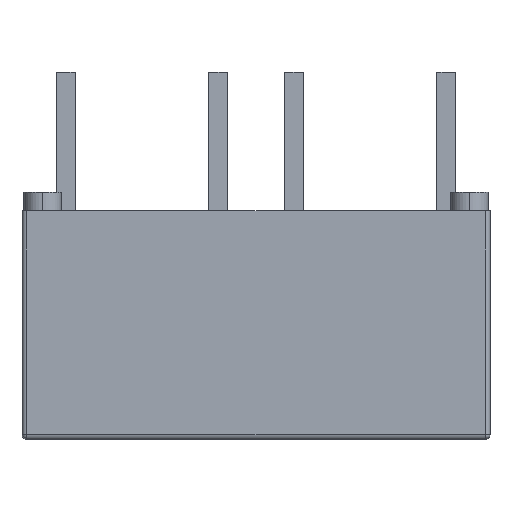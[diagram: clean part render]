
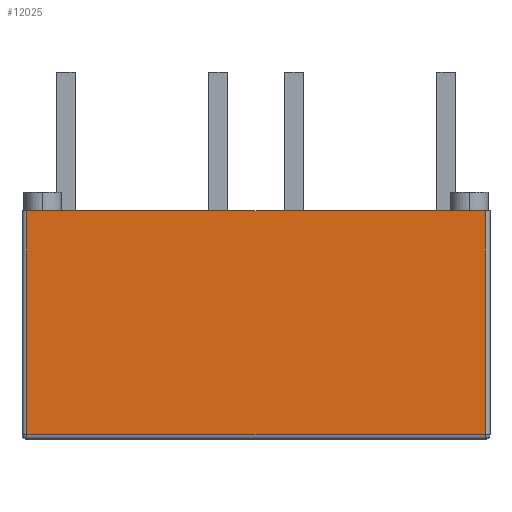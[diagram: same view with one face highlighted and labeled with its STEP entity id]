
A CAD part, top view. The second image highlights one B-rep face of the part: STEP entity #12025.
In plain terms, the highlighted planar face has unit normal (0, 0, 1).
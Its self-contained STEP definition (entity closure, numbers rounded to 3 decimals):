
#96 = DIRECTION ( 'NONE',  ( 0., 0., -1. ) ) ;
#185 = CARTESIAN_POINT ( 'NONE',  ( -6.25, 3.05, 1.85 ) ) ;
#840 = CARTESIAN_POINT ( 'NONE',  ( -6.123, 3.05, 1.85 ) ) ;
#936 = VECTOR ( 'NONE', #1730, 1000. ) ;
#1054 = DIRECTION ( 'NONE',  ( 0., -1., 0. ) ) ;
#1418 = VERTEX_POINT ( 'NONE', #9448 ) ;
#1663 = LINE ( 'NONE', #6139, #936 ) ;
#1730 = DIRECTION ( 'NONE',  ( 1., 0., 0. ) ) ;
#1931 = LINE ( 'NONE', #840, #10924 ) ;
#2806 = EDGE_CURVE ( 'NONE', #11660, #14353, #1931, .T. ) ;
#3451 = DIRECTION ( 'NONE',  ( -1., 0., 0. ) ) ;
#4169 = AXIS2_PLACEMENT_3D ( 'NONE', #12266, #96, #3451 ) ;
#5348 = VERTEX_POINT ( 'NONE', #14241 ) ;
#5530 = CARTESIAN_POINT ( 'NONE',  ( 6.123, 3.05, 1.85 ) ) ;
#5793 = ORIENTED_EDGE ( 'NONE', *, *, #13943, .F. ) ;
#6139 = CARTESIAN_POINT ( 'NONE',  ( -6.25, -2.923, 1.85 ) ) ;
#6711 = LINE ( 'NONE', #5530, #8315 ) ;
#6786 = EDGE_CURVE ( 'NONE', #5348, #1418, #6711, .T. ) ;
#7847 = ORIENTED_EDGE ( 'NONE', *, *, #2806, .T. ) ;
#7974 = CARTESIAN_POINT ( 'NONE',  ( -6.123, 3.05, 1.85 ) ) ;
#8315 = VECTOR ( 'NONE', #10004, 1000. ) ;
#9448 = CARTESIAN_POINT ( 'NONE',  ( 6.123, 3.05, 1.85 ) ) ;
#9559 = EDGE_CURVE ( 'NONE', #14353, #5348, #1663, .T. ) ;
#10004 = DIRECTION ( 'NONE',  ( 0., 1., 0. ) ) ;
#10155 = LINE ( 'NONE', #185, #13621 ) ;
#10924 = VECTOR ( 'NONE', #1054, 1000. ) ;
#10930 = ORIENTED_EDGE ( 'NONE', *, *, #6786, .T. ) ;
#11472 = DIRECTION ( 'NONE',  ( 1., 0., 0. ) ) ;
#11660 = VERTEX_POINT ( 'NONE', #7974 ) ;
#12025 = ADVANCED_FACE ( 'NONE', ( #13287 ), #13511, .F. ) ;
#12266 = CARTESIAN_POINT ( 'NONE',  ( -6.25, 3.05, 1.85 ) ) ;
#12601 = CARTESIAN_POINT ( 'NONE',  ( -6.123, -2.923, 1.85 ) ) ;
#12749 = EDGE_LOOP ( 'NONE', ( #5793, #7847, #13663, #10930 ) ) ;
#13287 = FACE_OUTER_BOUND ( 'NONE', #12749, .T. ) ;
#13511 = PLANE ( 'NONE',  #4169 ) ;
#13621 = VECTOR ( 'NONE', #11472, 1000. ) ;
#13663 = ORIENTED_EDGE ( 'NONE', *, *, #9559, .T. ) ;
#13943 = EDGE_CURVE ( 'NONE', #11660, #1418, #10155, .T. ) ;
#14241 = CARTESIAN_POINT ( 'NONE',  ( 6.123, -2.923, 1.85 ) ) ;
#14353 = VERTEX_POINT ( 'NONE', #12601 ) ;
